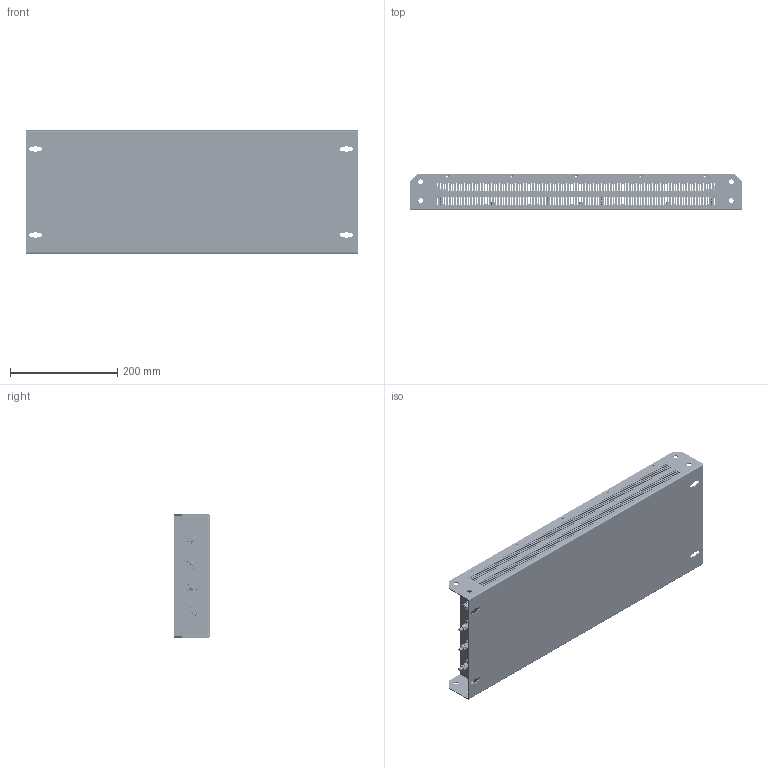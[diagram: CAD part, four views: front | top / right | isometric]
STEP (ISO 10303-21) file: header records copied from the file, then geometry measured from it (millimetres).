
FILE_DESCRIPTION((''),'2;1');
FILE_NAME('2090-XXLF-350_ASM','2008-06-23T',('abschul1'),('Rockwell Automation'),'PRO/ENGINEER BY PARAMETRIC TECHNOLOGY CORPORATION, 2004320','PRO/ENGINEER BY PARAMETRIC TECHNOLOGY CORPORATION, 2004320','');
FILE_SCHEMA(('CONFIG_CONTROL_DESIGN'));
Length unit declared in the file: millimetre
Products named in the file (18): BOX155B; FLUSH_STUD_PMM_PEM_FH-M5-30_ZI-; BOX155A; THRU-HOLE_STANDOFF_PMM_PEM_SO-M; SELF-CLINCHING_NUT_PMM_PEM_S-M8; FORMED_HEX_SCREW_AM_B18_2_3_2M_; WSH170; NUT61_PREVIEWCFG; TER710A; TER710B; LID25; WSH128; NUT83_PREVIEWCFG; WSH136; WSH134; BOX155C; TER688; 2090-XXLF-350_ASM
Assembly tree (95 placements, depth 2):
  2090-XXLF-350_ASM
    BOX155B
    FLUSH_STUD_PMM_PEM_FH-M5-30_ZI-  x8
    BOX155A
    THRU-HOLE_STANDOFF_PMM_PEM_SO-M  x9
    SELF-CLINCHING_NUT_PMM_PEM_S-M8  x2
    FORMED_HEX_SCREW_AM_B18_2_3_2M_  x2
    WSH170  x6
    NUT61_PREVIEWCFG  x18
    TER710A  x6
    TER710B  x6
    LID25
    WSH128  x18
    NUT83_PREVIEWCFG  x4
    WSH136  x2
    WSH134  x4
    BOX155C
    TER688  x6
Bounding box: 618 x 68.2 x 229 mm (x, y, z)
Volume: 819048.1 mm3; surface area: 1074973 mm2
Topology: 95 solids, 95 shells, 8268 faces, 21714 edges, 13710 vertices
Faces by surface type: cylinder 2892, plane 2862, cone 2486, torus 16, bspline 12
Entity records: 120500 total; most frequent: CARTESIAN_POINT 21069, DIRECTION 20975, ORIENTED_EDGE 20226, EDGE_CURVE 10113, AXIS2_PLACEMENT_3D 7319, VERTEX_POINT 6614, VECTOR 6337, LINE 6337
